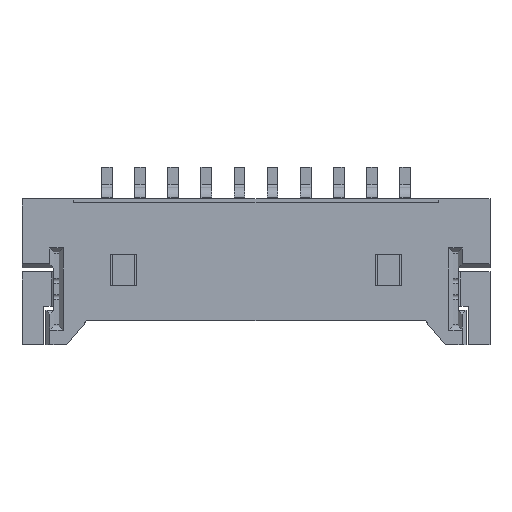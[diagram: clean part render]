
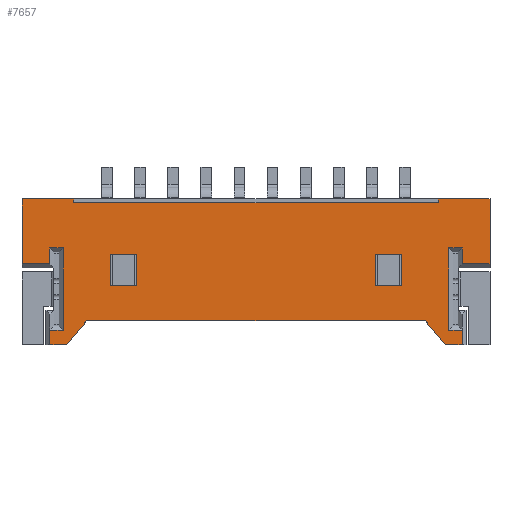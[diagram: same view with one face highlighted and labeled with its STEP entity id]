
A CAD part, top view. The second image highlights one B-rep face of the part: STEP entity #7657.
In plain terms, the highlighted planar face has unit normal (0, 0, 1).
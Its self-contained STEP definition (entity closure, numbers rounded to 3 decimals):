
#225=DIRECTION('',(-1.,0.,0.));
#226=VECTOR('',#225,1.95);
#227=CARTESIAN_POINT('',(6.95,5.5,0.));
#228=LINE('',#227,#226);
#237=DIRECTION('',(-1.,0.,0.));
#238=VECTOR('',#237,1.95);
#239=CARTESIAN_POINT('',(22.65,5.5,0.));
#240=LINE('',#239,#238);
#429=DIRECTION('',(-1.,0.,0.));
#430=VECTOR('',#429,13.75);
#431=CARTESIAN_POINT('',(20.7,5.35,0.));
#432=LINE('',#431,#430);
#441=DIRECTION('',(-1.,0.,0.));
#442=VECTOR('',#441,12.77);
#443=CARTESIAN_POINT('',(20.21,0.9,0.));
#444=LINE('',#443,#442);
#445=DIRECTION('',(-0.643,-0.766,0.));
#446=VECTOR('',#445,1.175);
#447=CARTESIAN_POINT('',(7.44,0.9,0.));
#448=LINE('',#447,#446);
#449=DIRECTION('',(-1.,0.,0.));
#450=VECTOR('',#449,0.635);
#451=CARTESIAN_POINT('',(6.685,0.,0.));
#452=LINE('',#451,#450);
#453=DIRECTION('',(0.,1.,0.));
#454=VECTOR('',#453,0.55);
#455=CARTESIAN_POINT('',(6.05,0.,0.));
#456=LINE('',#455,#454);
#457=DIRECTION('',(1.,0.,0.));
#458=VECTOR('',#457,0.5);
#459=CARTESIAN_POINT('',(6.05,0.55,0.));
#460=LINE('',#459,#458);
#461=DIRECTION('',(0.,1.,0.));
#462=VECTOR('',#461,3.1);
#463=CARTESIAN_POINT('',(6.55,0.55,0.));
#464=LINE('',#463,#462);
#465=DIRECTION('',(-1.,0.,0.));
#466=VECTOR('',#465,0.5);
#467=CARTESIAN_POINT('',(6.55,3.65,0.));
#468=LINE('',#467,#466);
#469=DIRECTION('',(0.,-1.,0.));
#470=VECTOR('',#469,0.6);
#471=CARTESIAN_POINT('',(6.05,3.65,0.));
#472=LINE('',#471,#470);
#473=DIRECTION('',(-1.,0.,0.));
#474=VECTOR('',#473,1.05);
#475=CARTESIAN_POINT('',(6.05,3.05,0.));
#476=LINE('',#475,#474);
#477=DIRECTION('',(0.,1.,0.));
#478=VECTOR('',#477,2.45);
#479=CARTESIAN_POINT('',(5.,3.05,0.));
#480=LINE('',#479,#478);
#481=DIRECTION('',(0.,-1.,0.));
#482=VECTOR('',#481,0.15);
#483=CARTESIAN_POINT('',(6.95,5.5,0.));
#484=LINE('',#483,#482);
#485=DIRECTION('',(0.,1.,0.));
#486=VECTOR('',#485,0.15);
#487=CARTESIAN_POINT('',(20.7,5.35,0.));
#488=LINE('',#487,#486);
#489=DIRECTION('',(0.,-1.,0.));
#490=VECTOR('',#489,2.45);
#491=CARTESIAN_POINT('',(22.65,5.5,0.));
#492=LINE('',#491,#490);
#493=DIRECTION('',(-1.,0.,0.));
#494=VECTOR('',#493,1.05);
#495=CARTESIAN_POINT('',(22.65,3.05,0.));
#496=LINE('',#495,#494);
#497=DIRECTION('',(0.,1.,0.));
#498=VECTOR('',#497,0.6);
#499=CARTESIAN_POINT('',(21.6,3.05,0.));
#500=LINE('',#499,#498);
#501=DIRECTION('',(-1.,0.,0.));
#502=VECTOR('',#501,0.5);
#503=CARTESIAN_POINT('',(21.6,3.65,0.));
#504=LINE('',#503,#502);
#505=DIRECTION('',(0.,-1.,0.));
#506=VECTOR('',#505,3.1);
#507=CARTESIAN_POINT('',(21.1,3.65,0.));
#508=LINE('',#507,#506);
#509=DIRECTION('',(1.,0.,0.));
#510=VECTOR('',#509,0.5);
#511=CARTESIAN_POINT('',(21.1,0.55,0.));
#512=LINE('',#511,#510);
#513=DIRECTION('',(0.,-1.,0.));
#514=VECTOR('',#513,0.55);
#515=CARTESIAN_POINT('',(21.6,0.55,0.));
#516=LINE('',#515,#514);
#517=DIRECTION('',(-1.,0.,0.));
#518=VECTOR('',#517,0.635);
#519=CARTESIAN_POINT('',(21.6,0.,0.));
#520=LINE('',#519,#518);
#521=DIRECTION('',(-0.643,0.766,0.));
#522=VECTOR('',#521,1.175);
#523=CARTESIAN_POINT('',(20.965,0.,
0.));
#524=LINE('',#523,#522);
#525=DIRECTION('',(0.,-1.,0.));
#526=VECTOR('',#525,1.15);
#527=CARTESIAN_POINT('',(18.325,3.4,0.));
#528=LINE('',#527,#526);
#529=DIRECTION('',(1.,0.,0.));
#530=VECTOR('',#529,1.);
#531=CARTESIAN_POINT('',(18.325,2.25,0.));
#532=LINE('',#531,#530);
#533=DIRECTION('',(0.,1.,0.));
#534=VECTOR('',#533,1.15);
#535=CARTESIAN_POINT('',(19.325,2.25,0.));
#536=LINE('',#535,#534);
#537=DIRECTION('',(-1.,0.,0.));
#538=VECTOR('',#537,1.);
#539=CARTESIAN_POINT('',(19.325,3.4,0.));
#540=LINE('',#539,#538);
#541=DIRECTION('',(-1.,0.,0.));
#542=VECTOR('',#541,1.);
#543=CARTESIAN_POINT('',(9.325,3.4,0.));
#544=LINE('',#543,#542);
#545=DIRECTION('',(0.,-1.,0.));
#546=VECTOR('',#545,1.15);
#547=CARTESIAN_POINT('',(8.325,3.4,0.));
#548=LINE('',#547,#546);
#549=DIRECTION('',(1.,0.,0.));
#550=VECTOR('',#549,1.);
#551=CARTESIAN_POINT('',(8.325,2.25,0.));
#552=LINE('',#551,#550);
#553=DIRECTION('',(0.,1.,0.));
#554=VECTOR('',#553,1.15);
#555=CARTESIAN_POINT('',(9.325,2.25,0.));
#556=LINE('',#555,#554);
#5455=CARTESIAN_POINT('',(6.95,5.5,0.));
#5456=VERTEX_POINT('',#5455);
#5457=CARTESIAN_POINT('',(5.,5.5,0.));
#5458=VERTEX_POINT('',#5457);
#5463=CARTESIAN_POINT('',(22.65,5.5,0.));
#5464=VERTEX_POINT('',#5463);
#5465=CARTESIAN_POINT('',(20.7,5.5,0.));
#5466=VERTEX_POINT('',#5465);
#5561=CARTESIAN_POINT('',(20.7,5.35,0.));
#5562=CARTESIAN_POINT('',(6.95,5.35,0.));
#5563=VERTEX_POINT('',#5561);
#5564=VERTEX_POINT('',#5562);
#5565=CARTESIAN_POINT('',(20.21,0.9,0.));
#5566=CARTESIAN_POINT('',(7.44,0.9,0.));
#5567=VERTEX_POINT('',#5565);
#5568=VERTEX_POINT('',#5566);
#5569=CARTESIAN_POINT('',(6.685,0.,0.));
#5570=VERTEX_POINT('',#5569);
#5571=CARTESIAN_POINT('',(6.05,0.,0.));
#5572=VERTEX_POINT('',#5571);
#5573=CARTESIAN_POINT('',(6.05,0.55,0.));
#5574=VERTEX_POINT('',#5573);
#5575=CARTESIAN_POINT('',(6.55,0.55,0.));
#5576=VERTEX_POINT('',#5575);
#5577=CARTESIAN_POINT('',(6.55,3.65,0.));
#5578=VERTEX_POINT('',#5577);
#5579=CARTESIAN_POINT('',(6.05,3.65,0.));
#5580=VERTEX_POINT('',#5579);
#5581=CARTESIAN_POINT('',(6.05,3.05,0.));
#5582=VERTEX_POINT('',#5581);
#5583=CARTESIAN_POINT('',(5.,3.05,0.));
#5584=VERTEX_POINT('',#5583);
#5585=CARTESIAN_POINT('',(22.65,3.05,0.));
#5586=VERTEX_POINT('',#5585);
#5587=CARTESIAN_POINT('',(21.6,3.05,0.));
#5588=VERTEX_POINT('',#5587);
#5589=CARTESIAN_POINT('',(21.6,3.65,0.));
#5590=VERTEX_POINT('',#5589);
#5591=CARTESIAN_POINT('',(21.1,3.65,0.));
#5592=VERTEX_POINT('',#5591);
#5593=CARTESIAN_POINT('',(21.1,0.55,0.));
#5594=VERTEX_POINT('',#5593);
#5595=CARTESIAN_POINT('',(21.6,0.55,0.));
#5596=VERTEX_POINT('',#5595);
#5597=CARTESIAN_POINT('',(21.6,0.,0.));
#5598=VERTEX_POINT('',#5597);
#5599=CARTESIAN_POINT('',(20.965,0.,
0.));
#5600=VERTEX_POINT('',#5599);
#5601=CARTESIAN_POINT('',(18.325,3.4,0.));
#5602=CARTESIAN_POINT('',(18.325,2.25,0.));
#5603=VERTEX_POINT('',#5601);
#5604=VERTEX_POINT('',#5602);
#5605=CARTESIAN_POINT('',(19.325,2.25,0.));
#5606=VERTEX_POINT('',#5605);
#5607=CARTESIAN_POINT('',(19.325,3.4,0.));
#5608=VERTEX_POINT('',#5607);
#5609=CARTESIAN_POINT('',(9.325,3.4,0.));
#5610=CARTESIAN_POINT('',(8.325,3.4,0.));
#5611=VERTEX_POINT('',#5609);
#5612=VERTEX_POINT('',#5610);
#5613=CARTESIAN_POINT('',(8.325,2.25,0.));
#5614=VERTEX_POINT('',#5613);
#5615=CARTESIAN_POINT('',(9.325,2.25,0.));
#5616=VERTEX_POINT('',#5615);
#7585=CARTESIAN_POINT('',(9.45,2.75,0.));
#7586=DIRECTION('',(0.,0.,1.));
#7587=DIRECTION('',(1.,0.,0.));
#7588=AXIS2_PLACEMENT_3D('',#7585,#7586,#7587);
#7589=PLANE('',#7588);
#7591=ORIENTED_EDGE('',*,*,#7590,.T.);
#7593=ORIENTED_EDGE('',*,*,#7592,.T.);
#7595=ORIENTED_EDGE('',*,*,#7594,.T.);
#7597=ORIENTED_EDGE('',*,*,#7596,.T.);
#7599=ORIENTED_EDGE('',*,*,#7598,.T.);
#7601=ORIENTED_EDGE('',*,*,#7600,.T.);
#7603=ORIENTED_EDGE('',*,*,#7602,.T.);
#7605=ORIENTED_EDGE('',*,*,#7604,.T.);
#7607=ORIENTED_EDGE('',*,*,#7606,.T.);
#7609=ORIENTED_EDGE('',*,*,#7608,.T.);
#7610=ORIENTED_EDGE('',*,*,#7424,.F.);
#7612=ORIENTED_EDGE('',*,*,#7611,.T.);
#7613=ORIENTED_EDGE('',*,*,#7575,.F.);
#7615=ORIENTED_EDGE('',*,*,#7614,.T.);
#7616=ORIENTED_EDGE('',*,*,#7432,.F.);
#7618=ORIENTED_EDGE('',*,*,#7617,.T.);
#7620=ORIENTED_EDGE('',*,*,#7619,.T.);
#7622=ORIENTED_EDGE('',*,*,#7621,.T.);
#7624=ORIENTED_EDGE('',*,*,#7623,.T.);
#7626=ORIENTED_EDGE('',*,*,#7625,.T.);
#7628=ORIENTED_EDGE('',*,*,#7627,.T.);
#7630=ORIENTED_EDGE('',*,*,#7629,.T.);
#7632=ORIENTED_EDGE('',*,*,#7631,.T.);
#7634=ORIENTED_EDGE('',*,*,#7633,.T.);
#7635=EDGE_LOOP('',(#7591,#7593,#7595,#7597,#7599,#7601,#7603,#7605,#7607,#7609,
#7610,#7612,#7613,#7615,#7616,#7618,#7620,#7622,#7624,#7626,#7628,#7630,#7632,
#7634));
#7636=FACE_OUTER_BOUND('',#7635,.F.);
#7638=ORIENTED_EDGE('',*,*,#7637,.T.);
#7640=ORIENTED_EDGE('',*,*,#7639,.T.);
#7642=ORIENTED_EDGE('',*,*,#7641,.T.);
#7644=ORIENTED_EDGE('',*,*,#7643,.T.);
#7645=EDGE_LOOP('',(#7638,#7640,#7642,#7644));
#7646=FACE_BOUND('',#7645,.F.);
#7648=ORIENTED_EDGE('',*,*,#7647,.T.);
#7650=ORIENTED_EDGE('',*,*,#7649,.T.);
#7652=ORIENTED_EDGE('',*,*,#7651,.T.);
#7654=ORIENTED_EDGE('',*,*,#7653,.T.);
#7655=EDGE_LOOP('',(#7648,#7650,#7652,#7654));
#7656=FACE_BOUND('',#7655,.F.);
#7424=EDGE_CURVE('',#5456,#5458,#228,.T.);
#7432=EDGE_CURVE('',#5464,#5466,#240,.T.);
#7575=EDGE_CURVE('',#5563,#5564,#432,.T.);
#7590=EDGE_CURVE('',#5567,#5568,#444,.T.);
#7592=EDGE_CURVE('',#5568,#5570,#448,.T.);
#7594=EDGE_CURVE('',#5570,#5572,#452,.T.);
#7596=EDGE_CURVE('',#5572,#5574,#456,.T.);
#7598=EDGE_CURVE('',#5574,#5576,#460,.T.);
#7600=EDGE_CURVE('',#5576,#5578,#464,.T.);
#7602=EDGE_CURVE('',#5578,#5580,#468,.T.);
#7604=EDGE_CURVE('',#5580,#5582,#472,.T.);
#7606=EDGE_CURVE('',#5582,#5584,#476,.T.);
#7608=EDGE_CURVE('',#5584,#5458,#480,.T.);
#7611=EDGE_CURVE('',#5456,#5564,#484,.T.);
#7614=EDGE_CURVE('',#5563,#5466,#488,.T.);
#7617=EDGE_CURVE('',#5464,#5586,#492,.T.);
#7619=EDGE_CURVE('',#5586,#5588,#496,.T.);
#7621=EDGE_CURVE('',#5588,#5590,#500,.T.);
#7623=EDGE_CURVE('',#5590,#5592,#504,.T.);
#7625=EDGE_CURVE('',#5592,#5594,#508,.T.);
#7627=EDGE_CURVE('',#5594,#5596,#512,.T.);
#7629=EDGE_CURVE('',#5596,#5598,#516,.T.);
#7631=EDGE_CURVE('',#5598,#5600,#520,.T.);
#7633=EDGE_CURVE('',#5600,#5567,#524,.T.);
#7637=EDGE_CURVE('',#5603,#5604,#528,.T.);
#7639=EDGE_CURVE('',#5604,#5606,#532,.T.);
#7641=EDGE_CURVE('',#5606,#5608,#536,.T.);
#7643=EDGE_CURVE('',#5608,#5603,#540,.T.);
#7647=EDGE_CURVE('',#5611,#5612,#544,.T.);
#7649=EDGE_CURVE('',#5612,#5614,#548,.T.);
#7651=EDGE_CURVE('',#5614,#5616,#552,.T.);
#7653=EDGE_CURVE('',#5616,#5611,#556,.T.);
#7657=ADVANCED_FACE('',(#7636,#7646,#7656),#7589,.T.);
